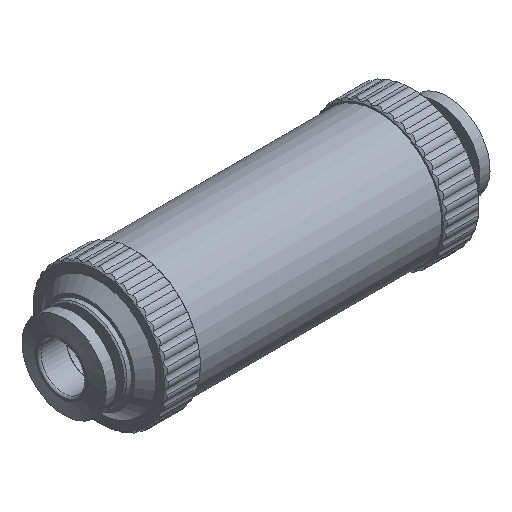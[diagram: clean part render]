
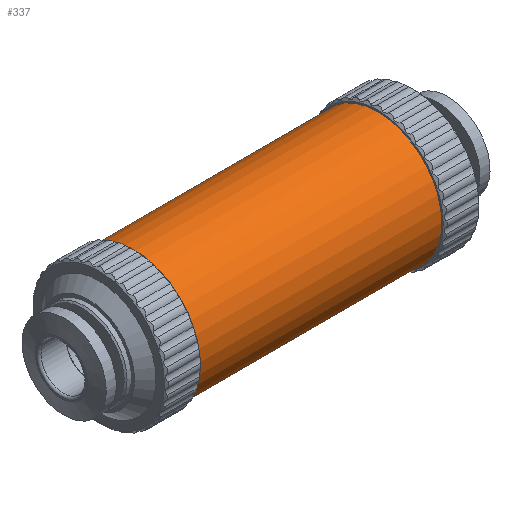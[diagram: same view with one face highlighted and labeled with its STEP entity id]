
A CAD part, isometric view. The second image highlights one B-rep face of the part: STEP entity #337.
In plain terms, the highlighted cylindrical face has radius 9 mm (diameter 18 mm), a full revolution.
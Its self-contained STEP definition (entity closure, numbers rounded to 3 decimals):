
#337=ADVANCED_FACE('',(#622,#623),#624,.T.);
#622=FACE_OUTER_BOUND('',#1104,.T.);
#623=FACE_OUTER_BOUND('',#1105,.T.);
#624=CYLINDRICAL_SURFACE('',#1106,9.0);
#1104=EDGE_LOOP('',(#2188));
#1105=EDGE_LOOP('',(#2189));
#1106=AXIS2_PLACEMENT_3D('',#2190,#2191,#2192);
#2188=ORIENTED_EDGE('',*,*,#3410,.T.);
#2189=ORIENTED_EDGE('',*,*,#3445,.F.);
#2190=CARTESIAN_POINT('',(58.0,0.0,0.0));
#2191=DIRECTION('',(-1.0,0.0,0.0));
#2192=DIRECTION('',(0.0,0.0,-1.0));
#3410=EDGE_CURVE('',#4197,#4197,#4198,.T.);
#3445=EDGE_CURVE('',#4234,#4234,#4235,.T.);
#4197=VERTEX_POINT('',#7976);
#4198=CIRCLE('',#7977,9.0);
#4234=VERTEX_POINT('',#8046);
#4235=CIRCLE('',#8047,9.0);
#7976=CARTESIAN_POINT('',(12.0,0.0,-9.0));
#7977=AXIS2_PLACEMENT_3D('',#8334,#8335,#8336);
#8046=CARTESIAN_POINT('',(46.0,0.0,-9.0));
#8047=AXIS2_PLACEMENT_3D('',#8373,#8374,#8375);
#8334=CARTESIAN_POINT('',(12.0,0.0,0.0));
#8335=DIRECTION('',(1.0,0.0,0.0));
#8336=DIRECTION('',(0.0,0.0,-1.0));
#8373=CARTESIAN_POINT('',(46.0,0.0,0.0));
#8374=DIRECTION('',(1.0,0.0,0.0));
#8375=DIRECTION('',(0.0,0.0,-1.0));
